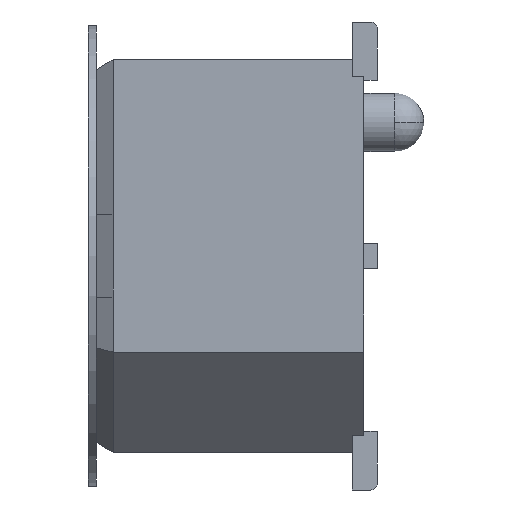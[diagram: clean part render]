
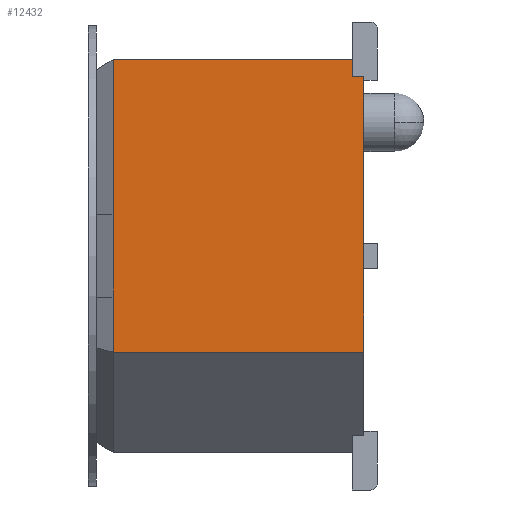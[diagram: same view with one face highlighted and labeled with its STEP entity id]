
A CAD part, left-side view. The second image highlights one B-rep face of the part: STEP entity #12432.
In plain terms, the highlighted planar face has unit normal (-1, 0, 0).
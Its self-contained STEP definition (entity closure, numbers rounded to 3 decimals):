
#141 = DIRECTION ( 'NONE',  ( 0., 0., 1. ) ) ;
#599 = CARTESIAN_POINT ( 'NONE',  ( -30.01, 0., -1.46 ) ) ;
#1104 = CARTESIAN_POINT ( 'NONE',  ( -30.01, 0.178, 2.73 ) ) ;
#2148 = LINE ( 'NONE', #34486, #23462 ) ;
#4622 = VECTOR ( 'NONE', #33172, 1000. ) ;
#4946 = CARTESIAN_POINT ( 'NONE',  ( -30.01, 3.81, 2.985 ) ) ;
#5367 = VERTEX_POINT ( 'NONE', #5619 ) ;
#5619 = CARTESIAN_POINT ( 'NONE',  ( -30.01, 0., -1.46 ) ) ;
#6495 = VERTEX_POINT ( 'NONE', #1104 ) ;
#8047 = LINE ( 'NONE', #19058, #29426 ) ;
#9232 = DIRECTION ( 'NONE',  ( 0., 1., 0. ) ) ;
#9237 = VECTOR ( 'NONE', #141, 1000. ) ;
#10197 = VERTEX_POINT ( 'NONE', #4946 ) ;
#10973 = VERTEX_POINT ( 'NONE', #40457 ) ;
#11472 = VERTEX_POINT ( 'NONE', #44567 ) ;
#12432 = ADVANCED_FACE ( 'NONE', ( #17696 ), #24716, .F. ) ;
#13472 = DIRECTION ( 'NONE',  ( 1., 0., 0. ) ) ;
#13751 = LINE ( 'NONE', #32242, #9237 ) ;
#14393 = CARTESIAN_POINT ( 'NONE',  ( -30.01, 3.81, -1.46 ) ) ;
#15359 = LINE ( 'NONE', #599, #4622 ) ;
#17696 = FACE_OUTER_BOUND ( 'NONE', #27903, .T. ) ;
#18261 = AXIS2_PLACEMENT_3D ( 'NONE', #14393, #13472, #31987 ) ;
#18377 = EDGE_CURVE ( 'NONE', #11472, #10197, #2148, .T. ) ;
#19058 = CARTESIAN_POINT ( 'NONE',  ( -30.01, 0., 2.73 ) ) ;
#19882 = ORIENTED_EDGE ( 'NONE', *, *, #36211, .T. ) ;
#23462 = VECTOR ( 'NONE', #29220, 1000. ) ;
#24716 = PLANE ( 'NONE',  #18261 ) ;
#25312 = ORIENTED_EDGE ( 'NONE', *, *, #26269, .T. ) ;
#25467 = EDGE_CURVE ( 'NONE', #10197, #26919, #30665, .T. ) ;
#26269 = EDGE_CURVE ( 'NONE', #10973, #6495, #28210, .T. ) ;
#26919 = VERTEX_POINT ( 'NONE', #33447 ) ;
#27903 = EDGE_LOOP ( 'NONE', ( #19882, #38396, #42651, #36868, #31500, #25312 ) ) ;
#28210 = LINE ( 'NONE', #34777, #37772 ) ;
#29220 = DIRECTION ( 'NONE',  ( 0., 1., 0. ) ) ;
#29426 = VECTOR ( 'NONE', #39681, 1000. ) ;
#30665 = LINE ( 'NONE', #44526, #46164 ) ;
#31500 = ORIENTED_EDGE ( 'NONE', *, *, #45407, .F. ) ;
#31987 = DIRECTION ( 'NONE',  ( 0., 1., 0. ) ) ;
#32242 = CARTESIAN_POINT ( 'NONE',  ( -30.01, 0.178, 2.73 ) ) ;
#33172 = DIRECTION ( 'NONE',  ( 0., 1., 0. ) ) ;
#33447 = CARTESIAN_POINT ( 'NONE',  ( -30.01, 3.81, -1.46 ) ) ;
#33851 = EDGE_CURVE ( 'NONE', #5367, #26919, #15359, .T. ) ;
#34193 = DIRECTION ( 'NONE',  ( 0., 0., -1. ) ) ;
#34486 = CARTESIAN_POINT ( 'NONE',  ( -30.01, 0.178, 2.985 ) ) ;
#34777 = CARTESIAN_POINT ( 'NONE',  ( -30.01, 0., 2.73 ) ) ;
#36211 = EDGE_CURVE ( 'NONE', #6495, #11472, #13751, .T. ) ;
#36868 = ORIENTED_EDGE ( 'NONE', *, *, #33851, .F. ) ;
#37772 = VECTOR ( 'NONE', #9232, 1000. ) ;
#38396 = ORIENTED_EDGE ( 'NONE', *, *, #18377, .T. ) ;
#39681 = DIRECTION ( 'NONE',  ( 0., 0., -1. ) ) ;
#40457 = CARTESIAN_POINT ( 'NONE',  ( -30.01, 0., 2.73 ) ) ;
#42651 = ORIENTED_EDGE ( 'NONE', *, *, #25467, .T. ) ;
#44526 = CARTESIAN_POINT ( 'NONE',  ( -30.01, 3.81, 2.985 ) ) ;
#44567 = CARTESIAN_POINT ( 'NONE',  ( -30.01, 0.178, 2.985 ) ) ;
#45407 = EDGE_CURVE ( 'NONE', #10973, #5367, #8047, .T. ) ;
#46164 = VECTOR ( 'NONE', #34193, 1000. ) ;
